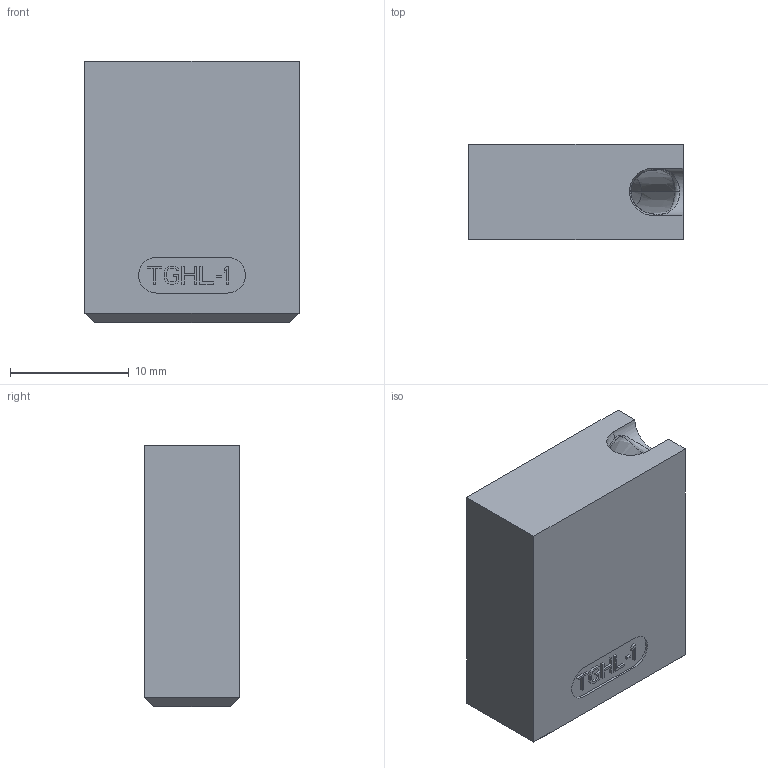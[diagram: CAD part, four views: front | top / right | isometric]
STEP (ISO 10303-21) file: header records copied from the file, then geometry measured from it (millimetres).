
FILE_DESCRIPTION((''),'2;1');
FILE_NAME('TGHL-1','2018-10-08T',('gsawatzky'),(''),'CREO PARAMETRIC BY PTC INC, 2016260','CREO PARAMETRIC BY PTC INC, 2016260','');
FILE_SCHEMA(('AUTOMOTIVE_DESIGN { 1 0 10303 214 1 1 1 1 }'));
Length unit declared in the file: millimetre
Products named in the file (1): TGHL-1
Bounding box: 18 x 8 x 22 mm (x, y, z)
Volume: 2883.5 mm3; surface area: 1819.9 mm2
Topology: 1 solids, 4 shells, 162 faces, 431 edges, 275 vertices
Faces by surface type: plane 122, bspline 14, cylinder 9, sphere 7, cone 4, extrusion 2, torus 2, revolution 2
Entity records: 8411 total; most frequent: CARTESIAN_POINT 3042, ORIENTED_EDGE 836, DIRECTION 749, PRESENTATION_STYLE_ASSIGNMENT 426, STYLED_ITEM 426, CURVE_STYLE 422, EDGE_CURVE 422, VECTOR 347
